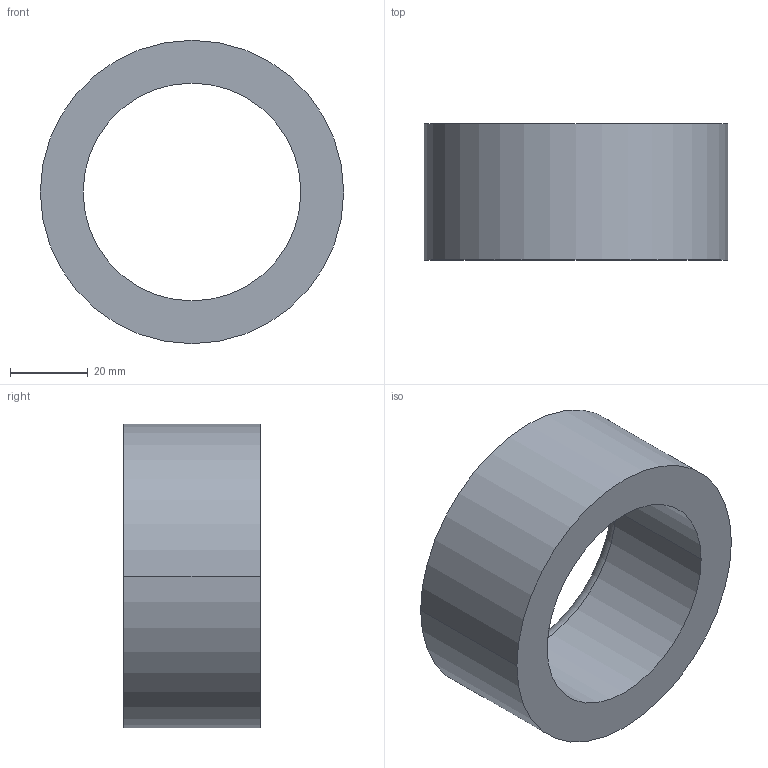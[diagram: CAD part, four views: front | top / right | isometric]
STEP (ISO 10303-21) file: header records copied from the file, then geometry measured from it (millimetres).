
FILE_DESCRIPTION (( 'STEP AP203' ), '1' );
FILE_NAME ('30800.WPP78M56.0.step', '2019-01-23T23:02:05', ( '' ), ( '' ), 'SwSTEP 2.0', 'SolidWorks 2017', '' );
FILE_SCHEMA (( 'CONFIG_CONTROL_DESIGN' ));
Length unit declared in the file: millimetre
Products named in the file (1): 30800.WPP78M56.0
Bounding box: 78 x 35 x 78 mm (x, y, z)
Volume: 80414 mm3; surface area: 19069.9 mm2
Topology: 1 solids, 1 shells, 8 faces, 16 edges, 10 vertices
Faces by surface type: cylinder 4, torus 2, plane 2
Entity records: 297 total; most frequent: DIRECTION 46, CARTESIAN_POINT 35, ORIENTED_EDGE 32, AXIS2_PLACEMENT_3D 21, EDGE_CURVE 16, CIRCLE 12, VERTEX_POINT 10, EDGE_LOOP 10
